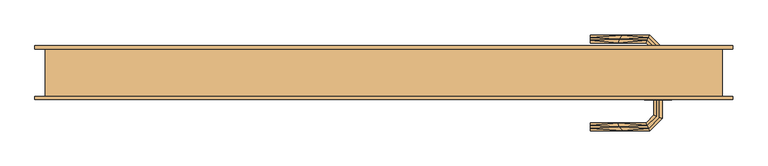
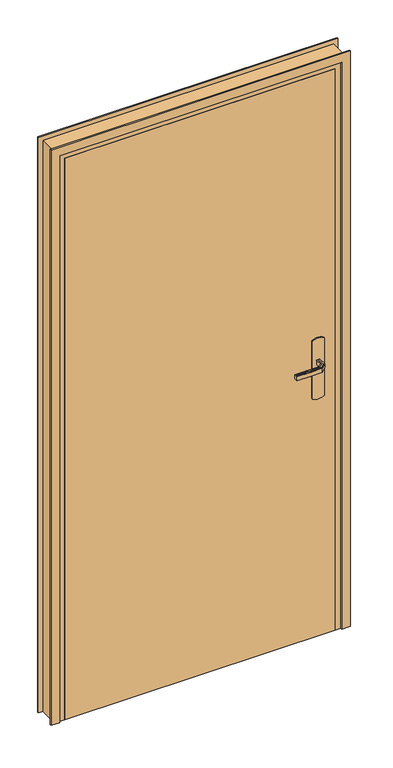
"""IFC4 building model written with IfcOpenShell, lengths in millimetres: door geometry, Portes - Int. Simple - PP (0.89m x 2.04m) (3)."""

from ifc_helpers import new_model, si_unit, point, frame, frame_2d, origin, origin_with_axes, place, context, project, spatial, polyline, circle_curve, trimmed, segment, composite_curve, outline, extrude, faceted_brep, source, transform, mapped, element, save


def door_14448009(model_context):
    return source(origin(), model_context, "Body", "SolidModel", [
        extrude(outline(composite_curve([segment(polyline([(1080.0, 955.0), (870.0, 955.0)]), True, "CONTINUOUS"), segment(trimmed(circle_curve(frame_2d((904.6410162, 975.0)), 40.0), [point((870.0, 955.0))], [point((870.0, 995.0))], False, "CARTESIAN"), True, "CONTINUOUS"), segment(polyline([(870.0, 995.0), (1080.0, 995.0)]), True, "CONTINUOUS"), segment(trimmed(circle_curve(frame_2d((1045.3589838, 975.0)), 40.0), [point((1080.0, 995.0))], [point((1080.0, 955.0))], False, "CARTESIAN"), True, "CONTINUOUS")], self_intersect=False)), frame((0.0, 40.0, 0.0), z_axis=(0.0, 1.0, 0.0), x_axis=(0.0, 0.0, 1.0)), (0.0, 0.0, 1.0), 5.0),
        extrude(outline(polyline([(1035.0, 40.0), (1035.0, 0.0), (105.0, 0.0), (105.0, 40.0), (1035.0, 40.0)])), origin_with_axes(), (0.0, 0.0, 1.0), 2040.0),
        extrude(outline(polyline([(0.0, 1055.0), (0.0, 1085.0), (2090.0, 1085.0), (2090.0, 55.0), (0.0, 55.0), (0.0, 85.0), (2060.0, 85.0), (2060.0, 1055.0), (0.0, 1055.0)])), frame((0.0, 70.0, 0.0), z_axis=(0.0, 1.0, 0.0), x_axis=(0.0, 0.0, 1.0)), (0.0, 0.0, 1.0), 5.0),
        extrude(outline(polyline([(0.0, 1055.0), (0.0, 1085.0), (2090.0, 1085.0), (2090.0, 55.0), (0.0, 55.0), (0.0, 85.0), (2060.0, 85.0), (2060.0, 1055.0), (0.0, 1055.0)])), frame((0.0, -5.0, 0.0), z_axis=(0.0, 1.0, 0.0), x_axis=(0.0, 0.0, 1.0)), (0.0, 0.0, 1.0), 5.0),
        faceted_brep([(969.0, -5.0, 1007.0), (972.9747013, -5.0, 1007.7804408), (977.0252987, -5.0, 1007.7804408), (981.0, -5.0, 1007.0), (981.0, -5.0, 993.0), (977.0252987, -5.0, 992.2195592), (972.9747013, -5.0, 992.2195592), (969.0, -5.0, 993.0), (981.0, -32.6509507, 1007.0), (977.0252987, -31.0045755, 1007.7804408), (972.9747013, -29.3267632, 1007.7804408), (959.2986025, -43.002862, 1007.7804408), (960.9764148, -47.0534593, 1007.7804408), (969.0, -27.680388, 1007.0), (969.0, -27.680388, 993.0), (972.9747013, -29.3267632, 992.2195592), (977.0252987, -31.0045755, 992.2195592), (960.9764148, -47.0534593, 992.2195592), (959.2986025, -43.002862, 992.2195592), (981.0, -32.6509507, 993.0), (962.62279, -51.0281607, 1007.0), (957.6522273, -39.0281607, 1007.0), (957.6522273, -39.0281607, 993.0), (962.62279, -51.0281607, 993.0), (874.9813594, -51.0281607, 993.0), (874.9813594, -51.0281607, 1007.0), (874.9813594, -47.0534593, 1007.7804408), (874.9813594, -43.002862, 1007.7804408), (874.9813594, -39.0281607, 1007.0), (874.9813594, -39.0281607, 993.0), (874.9813594, -43.002862, 992.2195592), (874.9813594, -47.0534593, 992.2195592), (922.6923028, -51.0281607, 1007.0), (917.1399809, -45.0281607, 1007.8786868), (916.3167933, -39.0281607, 1007.0), (916.3167933, -39.0281607, 993.0), (917.1399811, -45.0281608, 992.1213132), (922.6923104, -51.0281607, 993.0)], [[[0, 1, 2, 3, 4, 5, 6, 7]], [[8, 3, 2, 9]], [[9, 2, 1, 10, 11, 12]], [[10, 1, 0, 13]], [[7, 14, 13, 0]], [[7, 6, 15, 14]], [[15, 6, 5, 16, 17, 18]], [[5, 4, 19, 16]], [[3, 8, 19, 4]], [[20, 8, 9, 12]], [[11, 10, 13, 21]], [[14, 22, 21, 13]], [[22, 14, 15, 18]], [[17, 16, 19, 23]], [[8, 20, 23, 19]], [[24, 25, 26, 27, 28, 29, 30, 31]], [[32, 33, 26]], [[25, 32, 26]], [[12, 32, 20]], [[33, 11, 34]], [[21, 34, 11]], [[34, 28, 27]], [[26, 33, 27]], [[27, 33, 34]], [[12, 33, 32]], [[12, 11, 33]], [[34, 21, 22, 35, 29, 28]], [[35, 36, 30]], [[37, 31, 36]], [[22, 18, 35]], [[35, 30, 29]], [[24, 31, 37]], [[23, 37, 17]], [[37, 36, 17]], [[17, 36, 18]], [[18, 36, 35]], [[31, 30, 36]], [[37, 23, 20, 32, 25, 24]]]),
        faceted_brep([(969.0, 45.0, 993.0), (972.9747013, 45.0, 992.2195592), (977.0252987, 45.0, 992.2195592), (981.0, 45.0, 993.0), (981.0, 45.0, 1007.0), (977.0252987, 45.0, 1007.7804408), (972.9747013, 45.0, 1007.7804408), (969.0, 45.0, 1007.0), (969.0, 67.4852045, 1007.0), (969.0, 67.4852045, 993.0), (972.9747013, 69.1315797, 1007.7804408), (977.0252987, 70.8093921, 1007.7804408), (960.8389062, 86.9957845, 1007.7804408), (959.1610938, 82.9451872, 1007.7804408), (981.0, 72.4557673, 1007.0), (981.0, 72.4557673, 993.0), (977.0252987, 70.8093921, 992.2195592), (972.9747013, 69.1315797, 992.2195592), (959.1610938, 82.9451872, 992.2195592), (960.8389062, 86.9957845, 992.2195592), (957.5147186, 78.9704859, 1007.0), (957.5147186, 78.9704859, 993.0), (962.4852814, 90.9704859, 1007.0), (962.4852814, 90.9704859, 993.0), (874.9542163, 78.9704859, 1007.0), (874.9542163, 82.9451872, 1007.7804408), (874.9542163, 86.9957845, 1007.7804408), (874.9542163, 90.9704859, 1007.0), (874.9542163, 90.9704859, 993.0), (874.9542163, 86.9957845, 992.2195592), (874.9542163, 82.9451872, 992.2195592), (874.9542163, 78.9704859, 993.0), (916.2344794, 78.9704859, 993.0), (916.2344675, 78.9704859, 1007.0), (917.0576551, 84.9704859, 1007.8786868), (922.5547942, 90.9704859, 1007.0), (922.5547957, 90.9704859, 993.0), (917.0576549, 84.9704858, 992.1213132)], [[[0, 1, 2, 3, 4, 5, 6, 7]], [[7, 8, 9, 0]], [[7, 6, 10, 8]], [[10, 6, 5, 11, 12, 13]], [[5, 4, 14, 11]], [[15, 14, 4, 3]], [[15, 3, 2, 16]], [[16, 2, 1, 17, 18, 19]], [[17, 1, 0, 9]], [[8, 20, 21, 9]], [[20, 8, 10, 13]], [[11, 14, 22, 12]], [[15, 23, 22, 14]], [[23, 15, 16, 19]], [[18, 17, 9, 21]], [[24, 25, 26, 27, 28, 29, 30, 31]], [[32, 21, 20, 33, 24, 31]], [[33, 34, 25]], [[35, 26, 34]], [[20, 13, 33]], [[33, 25, 24]], [[27, 26, 35]], [[22, 35, 12]], [[35, 34, 12]], [[12, 34, 13]], [[13, 34, 33]], [[26, 25, 34]], [[35, 22, 23, 36, 28, 27]], [[36, 37, 29]], [[28, 36, 29]], [[19, 36, 23]], [[37, 18, 32]], [[21, 32, 18]], [[32, 31, 30]], [[29, 37, 30]], [[30, 37, 32]], [[19, 37, 36]], [[19, 18, 37]]]),
        faceted_brep([(1070.0, 70.0, 0.0), (1070.0, 0.0, 0.0), (1035.0, 0.0, 0.0), (1035.0, 40.0, 0.0), (1020.0, 40.0, 0.0), (1020.0, 70.0, 0.0), (1070.0, 70.0, 2075.0), (1070.0, 0.0, 2075.0), (1020.0, 70.0, 2025.0), (120.0, 70.0, 2025.0), (120.0, 70.0, 0.0), (70.0, 70.0, 0.0), (70.0, 70.0, 2075.0), (1020.0, 40.0, 2025.0), (1035.0, 40.0, 2040.0), (105.0, 40.0, 2040.0), (105.0, 40.0, 0.0), (120.0, 40.0, 0.0), (120.0, 40.0, 2025.0), (1035.0, 0.0, 2040.0), (70.0, 0.0, 2075.0), (70.0, 0.0, 0.0), (105.0, 0.0, 0.0), (105.0, 0.0, 2040.0)], [[[0, 1, 2, 3, 4, 5]], [[1, 0, 6, 7]], [[0, 5, 8, 9, 10, 11, 12, 6]], [[5, 4, 13, 8]], [[4, 3, 14, 15, 16, 17, 18, 13]], [[3, 2, 19, 14]], [[2, 1, 7, 20, 21, 22, 23, 19]], [[20, 12, 11, 21]], [[22, 21, 11, 10, 17, 16]], [[9, 18, 17, 10]], [[15, 23, 22, 16]], [[7, 6, 12, 20]], [[8, 13, 18, 9]], [[14, 19, 23, 15]]]),
        extrude(outline(composite_curve([segment(polyline([(870.0, 995.0), (1080.0, 995.0)]), True, "CONTINUOUS"), segment(trimmed(circle_curve(frame_2d((1045.3589838, 975.0)), 40.0), [point((1080.0, 995.0))], [point((1080.0, 955.0))], False, "CARTESIAN"), True, "CONTINUOUS"), segment(polyline([(1080.0, 955.0), (870.0, 955.0)]), True, "CONTINUOUS"), segment(trimmed(circle_curve(frame_2d((904.6410162, 975.0)), 40.0), [point((870.0, 955.0))], [point((870.0, 995.0))], False, "CARTESIAN"), True, "CONTINUOUS")], self_intersect=False)), frame((0.0, -5.0, 0.0), z_axis=(0.0, 1.0, 0.0), x_axis=(0.0, 0.0, 1.0)), (0.0, 0.0, 1.0), 5.0),
    ])


if __name__ == "__main__":
    model = new_model("IFC4")
    model_context = context("Model", 3, world=origin())
    ifc_project = project(units=[si_unit("LENGTHUNIT", "METRE", prefix="MILLI")], contexts=[model_context])
    site = spatial("IfcSite", under=ifc_project)
    building = spatial("IfcBuilding", under=site)
    placement = place(None, origin())
    door_shape = door_14448009(model_context)
    element("IfcDoor", 1, ObjectType="Portes - Int. Simple - PP (0.89m x 2.04m) (3)", at=placement, inside=building, context=model_context, shape_type="MappedRepresentation", body=[
        mapped(door_shape, transform((0.0, 0.0, 0.0), x_axis=(1.0, 0.0, 0.0), y_axis=(0.0, 1.0, 0.0), z_axis=(0.0, 0.0, 1.0))),
    ])
    save(model, "model.ifc")
